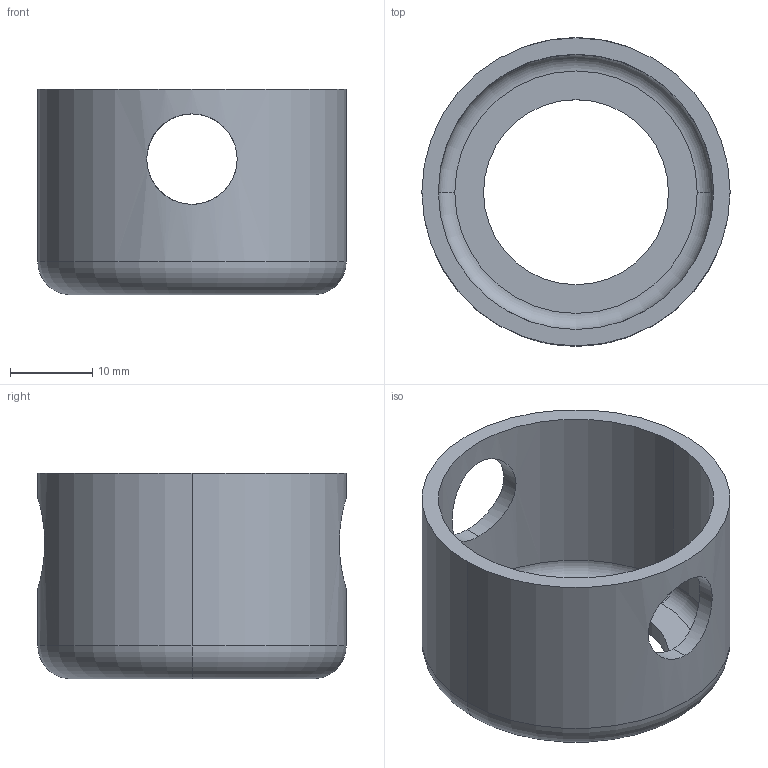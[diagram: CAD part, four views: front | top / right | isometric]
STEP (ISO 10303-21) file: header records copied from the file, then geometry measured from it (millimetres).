
FILE_DESCRIPTION((''),'2;1');
FILE_NAME('A3001','2016-07-21T',('master'),(''),'PRO/ENGINEER BY PARAMETRIC TECHNOLOGY CORPORATION, 2009060','PRO/ENGINEER BY PARAMETRIC TECHNOLOGY CORPORATION, 2009060','');
FILE_SCHEMA(('CONFIG_CONTROL_DESIGN'));
Length unit declared in the file: millimetre
Products named in the file (1): A3001
Bounding box: 37.5 x 37.5 x 25 mm (x, y, z)
Volume: 5861.7 mm3; surface area: 6376.3 mm2
Topology: 1 solids, 1 shells, 17 faces, 38 edges, 24 vertices
Faces by surface type: cylinder 10, torus 4, plane 3
Entity records: 658 total; most frequent: CARTESIAN_POINT 223, DIRECTION 84, ORIENTED_EDGE 76, EDGE_CURVE 38, AXIS2_PLACEMENT_3D 37, VERTEX_POINT 24, EDGE_LOOP 24, CIRCLE 20
